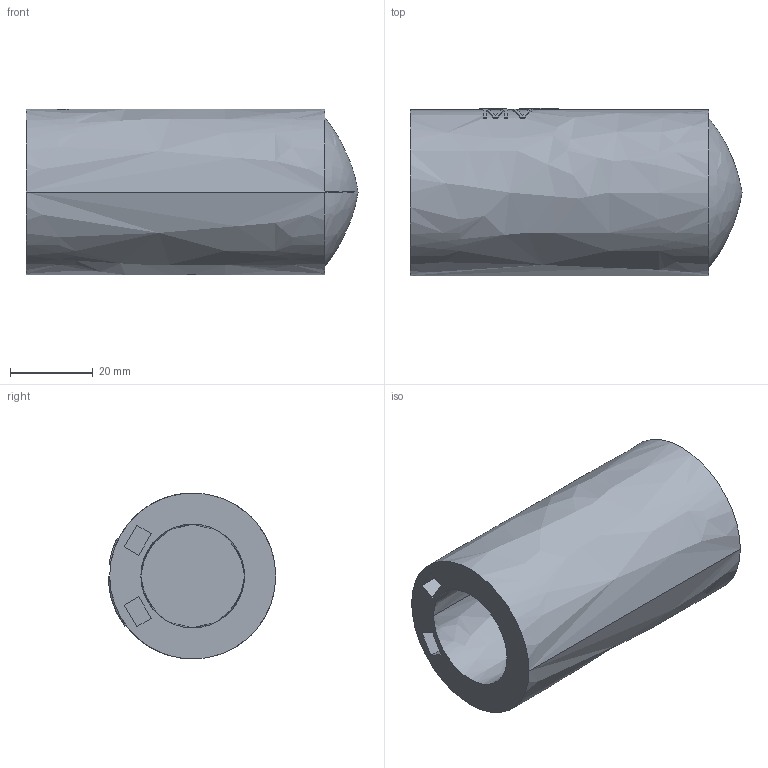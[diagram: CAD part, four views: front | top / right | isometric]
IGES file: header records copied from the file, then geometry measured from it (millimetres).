
Start section:  PTC IGES file: mv_d25.igs
Global section: file name: mv_d25.igs; native system: Pro/ENGINEER by Parametric Technology Corporation; preprocessor: 2006140; author: muellerc; organization: Unknown; date: 20060803.100940; units: millimetre
Bounding box: 80 x 40.35 x 40 mm (x, y, z)
Surface area: 14888.2 mm2 (no closed solid volume)
Topology: 0 solids, 0 shells, 57 faces, 349 edges, 354 vertices
Faces by surface type: bspline 57
